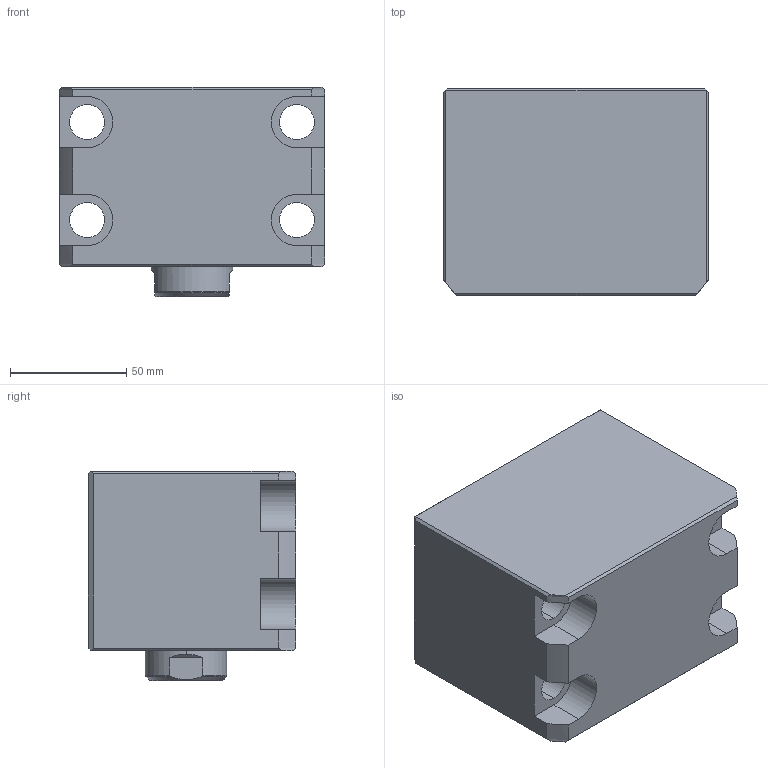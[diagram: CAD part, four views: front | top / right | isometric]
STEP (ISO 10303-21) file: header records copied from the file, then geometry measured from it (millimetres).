
FILE_DESCRIPTION (( 'STEP AP214' ), '1' );
FILE_NAME ('chtb-lam63x10n_asm.STEP', '2018-05-22T02:52:47', ( 'Windows' ), ( 'Microsoft' ), 'SwSTEP 2.0', 'SolidWorks 2015', '' );
FILE_SCHEMA (( 'AUTOMOTIVE_DESIGN' ));
Length unit declared in the file: millimetre
Products named in the file (4): CHTB-LAM63X10NBT; CHTB63X10NHSG; CHTB-63QG; chtb-lam63x10n_asm
Assembly tree (3 placements, depth 2):
  chtb-lam63x10n_asm
    CHTB-63QG
    CHTB63X10NHSG
    CHTB-LAM63X10NBT
Bounding box: 114 x 89 x 90 mm (x, y, z)
Volume: 680223.8 mm3; surface area: 116650.8 mm2
Topology: 3 solids, 3 shells, 170 faces, 506 edges, 344 vertices
Faces by surface type: cylinder 94, plane 47, bspline 13, cone 8, torus 8
Entity records: 18603 total; most frequent: CARTESIAN_POINT 14283, ORIENTED_EDGE 1000, DIRECTION 717, EDGE_CURVE 500, VERTEX_POINT 344, AXIS2_PLACEMENT_3D 267, EDGE_LOOP 192, LINE 183
